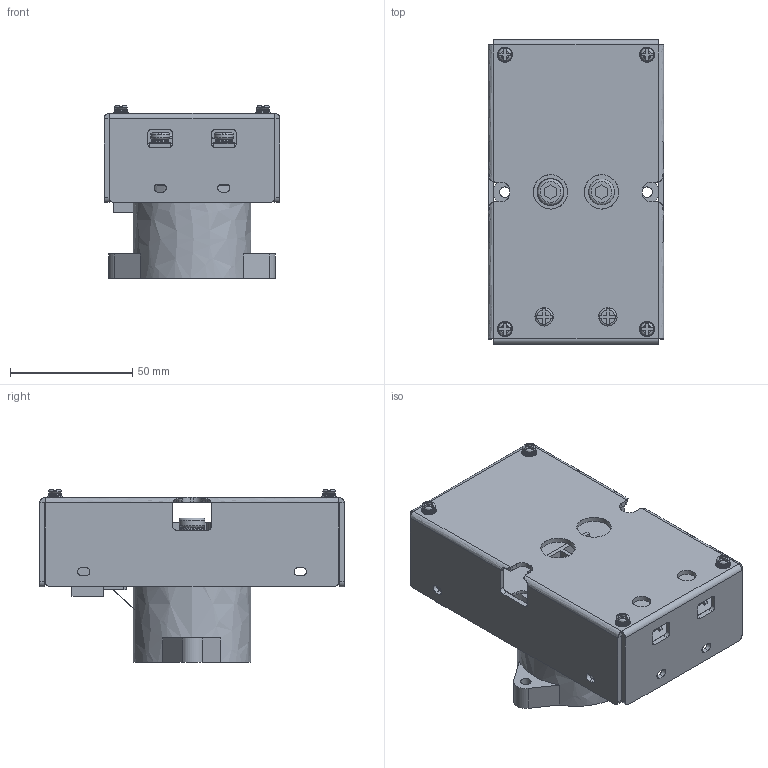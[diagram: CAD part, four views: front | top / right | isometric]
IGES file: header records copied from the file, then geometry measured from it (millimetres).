
Global section: file name: [3D] BLVD-25V(50V)150A-S; native system: Autodesk Inventor 2021; preprocessor: unknown; author: eunsol jang; date: 20250421.160510; units: inch
Bounding box: 71.7 x 124.4 x 70.6 mm (x, y, z)
Volume: 160403.6 mm3; surface area: 83654.6 mm2
Topology: 6 solids, 6 shells, 868 faces, 2316 edges, 1551 vertices
Faces by surface type: bspline 868
